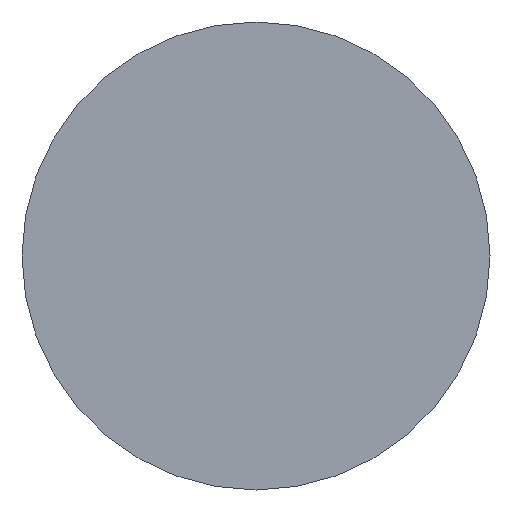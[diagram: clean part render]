
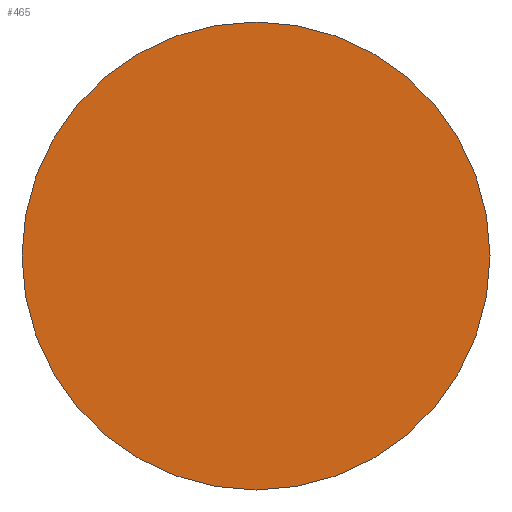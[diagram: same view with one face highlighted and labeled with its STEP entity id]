
A CAD part, front view. The second image highlights one B-rep face of the part: STEP entity #465.
In plain terms, the highlighted planar face has unit normal (0, -1, 0).
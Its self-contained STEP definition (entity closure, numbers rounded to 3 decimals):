
#306 = CYLINDRICAL_SURFACE('',#307,2.);
#307 = AXIS2_PLACEMENT_3D('',#308,#309,#310);
#308 = CARTESIAN_POINT('',(0.,-82.,0.));
#309 = DIRECTION('',(0.,1.,0.));
#310 = DIRECTION('',(1.,0.,-0.));
#361 = VERTEX_POINT('',#362);
#362 = CARTESIAN_POINT('',(2.,-82.,0.));
#383 = EDGE_CURVE('',#361,#361,#384,.T.);
#384 = SURFACE_CURVE('',#385,(#390,#397),.PCURVE_S1.);
#385 = CIRCLE('',#386,2.);
#386 = AXIS2_PLACEMENT_3D('',#387,#388,#389);
#387 = CARTESIAN_POINT('',(0.,-82.,0.));
#388 = DIRECTION('',(0.,1.,0.));
#389 = DIRECTION('',(1.,0.,-0.));
#390 = PCURVE('',#306,#391);
#391 = DEFINITIONAL_REPRESENTATION('',(#392),#396);
#392 = LINE('',#393,#394);
#393 = CARTESIAN_POINT('',(0.,0.));
#394 = VECTOR('',#395,1.);
#395 = DIRECTION('',(1.,0.));
#396 = ( GEOMETRIC_REPRESENTATION_CONTEXT(2) 
PARAMETRIC_REPRESENTATION_CONTEXT() REPRESENTATION_CONTEXT('2D SPACE',''
  ) );
#397 = PCURVE('',#398,#403);
#398 = PLANE('',#399);
#399 = AXIS2_PLACEMENT_3D('',#400,#401,#402);
#400 = CARTESIAN_POINT('',(0.,-82.,0.));
#401 = DIRECTION('',(0.,1.,0.));
#402 = DIRECTION('',(1.,0.,-0.));
#403 = DEFINITIONAL_REPRESENTATION('',(#404),#408);
#404 = CIRCLE('',#405,2.);
#405 = AXIS2_PLACEMENT_2D('',#406,#407);
#406 = CARTESIAN_POINT('',(0.,0.));
#407 = DIRECTION('',(1.,0.));
#408 = ( GEOMETRIC_REPRESENTATION_CONTEXT(2) 
PARAMETRIC_REPRESENTATION_CONTEXT() REPRESENTATION_CONTEXT('2D SPACE',''
  ) );
#465 = ADVANCED_FACE('',(#466),#398,.F.);
#466 = FACE_BOUND('',#467,.T.);
#467 = EDGE_LOOP('',(#468));
#468 = ORIENTED_EDGE('',*,*,#383,.F.);
